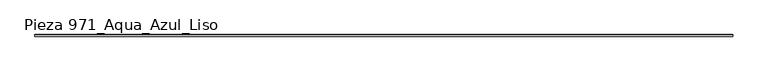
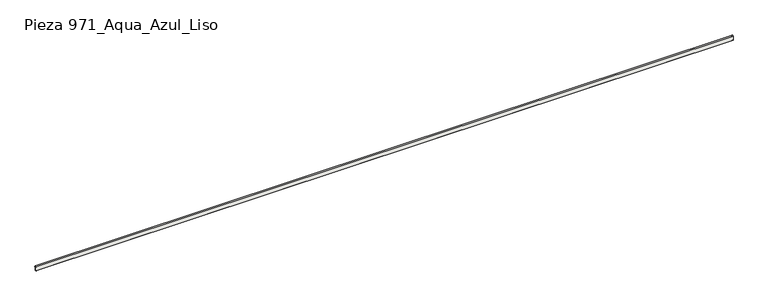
"""IFC4 building model written with IfcOpenShell, lengths in millimetres: slab geometry, ROSA GRES_971 : Pieza 971_Aqua_Azul_Liso."""

from ifc_helpers import new_model, si_unit, point, frame, frame_2d, origin, place, context, project, spatial, polyline, circle_curve, trimmed, segment, composite_curve, outline, extrude, source, transform, mapped, element, save


def pieza_971_aqua_azul_liso_c0df6c5c(model_context):
    return source(origin(), model_context, "Body", "SweptSolid", [
        extrude(outline(composite_curve([segment(polyline([(31.1851409, 153.6242825), (39.9975962, 139.9882747), (39.9975962, 128.1510212), (28.5599154, 128.1510212), (22.7114874, 137.4414839)]), True, "CONTINUOUS"), segment(trimmed(circle_curve(frame_2d((18.761148, 135.3324983)), 4.4780578), [point((22.7114874, 137.4414839))], [point((14.3481673, 136.0931579))], True, "CARTESIAN"), True, "CONTINUOUS"), segment(polyline([(14.3481673, 136.0931579), (14.3481673, 113.5290116)]), True, "CONTINUOUS"), segment(trimmed(circle_curve(frame_2d((21.3613471, 107.0507801)), 9.5473648), [point((14.3481673, 113.5290116))], [point((14.9166636, 100.0067593))], True, "CARTESIAN"), True, "CONTINUOUS"), segment(polyline([(14.9166636, 100.0067593), (14.9166636, 88.7017059)]), True, "CONTINUOUS"), segment(trimmed(circle_curve(frame_2d((21.3511036, 81.7801218)), 9.450415), [point((14.9166636, 88.7017059))], [point((14.9614723, 74.8171516))], True, "CARTESIAN"), True, "CONTINUOUS"), segment(polyline([(14.9614723, 74.8171516), (14.9614723, 63.5120982)]), True, "CONTINUOUS"), segment(trimmed(circle_curve(frame_2d((21.3959123, 56.5905141)), 9.450415), [point((14.9614723, 63.5120982))], [point((15.0062809, 49.6275439))], True, "CARTESIAN"), True, "CONTINUOUS"), segment(polyline([(15.0062809, 49.6275439), (15.0062809, 41.3450913), (2.68, 41.3450913)]), True, "CONTINUOUS"), segment(trimmed(circle_curve(frame_2d((2.68, 44.0250913)), 2.68), [point((2.68, 41.3450913))], [point((0.0, 44.0250913))], False, "CARTESIAN"), True, "CONTINUOUS"), segment(polyline([(0.0, 44.0250913), (0.0, 146.1331033)]), True, "CONTINUOUS"), segment(trimmed(circle_curve(frame_2d((16.8529233, 144.6319512)), 16.9196478), [point((0.0, 146.1331033))], [point((31.1851409, 153.6242825))], False, "CARTESIAN"), True, "CONTINUOUS")], self_intersect=False)), frame((0.0, 0.0, 0.0), z_axis=(1.0, 0.0, 0.0), x_axis=(0.0, 1.0, 0.0)), (0.0, 0.0, 1.0), 17550.3999947),
    ])


if __name__ == "__main__":
    model = new_model("IFC4")
    model_context = context("Model", 3, world=origin())
    ifc_project = project(units=[si_unit("LENGTHUNIT", "METRE", prefix="MILLI")], contexts=[model_context])
    site = spatial("IfcSite", under=ifc_project)
    building = spatial("IfcBuilding", under=site)
    placement = place(None, origin())
    pieza_971_aqua_azul_liso_shape = pieza_971_aqua_azul_liso_c0df6c5c(model_context)
    element("IfcSlab", 1, ObjectType="ROSA GRES_971 : Pieza 971_Aqua_Azul_Liso", at=placement, inside=building, context=model_context, shape_type="MappedRepresentation", body=[
        mapped(pieza_971_aqua_azul_liso_shape, transform((0.0, 0.0, 0.0), x_axis=(1.0, 0.0, 0.0), y_axis=(0.0, 1.0, 0.0), z_axis=(0.0, 0.0, 1.0))),
    ])
    save(model, "model.ifc")
